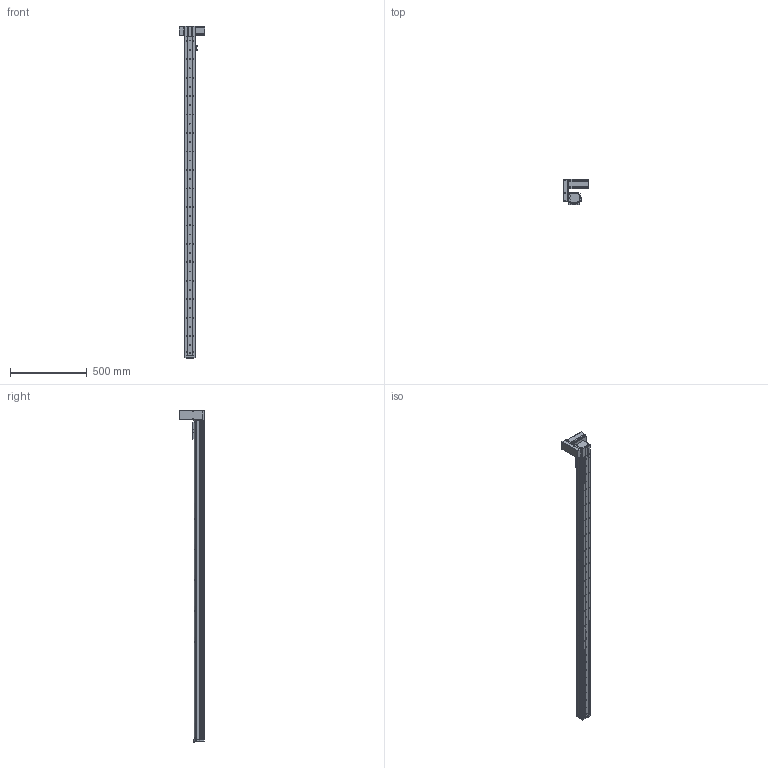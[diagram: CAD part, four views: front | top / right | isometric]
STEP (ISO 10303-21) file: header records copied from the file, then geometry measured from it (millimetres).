
FILE_DESCRIPTION (( 'STEP AP214' ), '1' );
FILE_NAME ('KSD68BS-S1900-MRU-CR.STEP', '2019-08-29T01:09:13', ( '微软用户' ), ( '微软中国' ), 'SwSTEP 2.0', 'SolidWorks 2014', '' );
FILE_SCHEMA (( 'AUTOMOTIVE_DESIGN' ));
Length unit declared in the file: millimetre
Products named in the file (14): 68宽单导轨全封闭同步带端板; 68单导轨全封闭同步带电机座右; 68单导轨全封闭同步带安装板; 悵誘欶奻狟殏; 68宽马达安装板连板上折同步带; 感应片68宽全封闭; U倰嫖萇EEㄜSX672; 台达ECMA－C20604AS伺服电机（400W); KSD68BS 1900行程盖板全封闭; KSD68BS 1900行程底板全封闭; KSD68BS-S1900-MRU-CR; 68宽单导轨全封闭丝杆传动安装板1防护罩; 68遵裔啣揤啣1; KSD68BS 1900行程侧板全封闭
Assembly tree (16 placements, depth 2):
  KSD68BS-S1900-MRU-CR
    KSD68BS 1900行程底板全封闭
    台达ECMA－C20604AS伺服电机（400W)
    U倰嫖萇EEㄜSX672  x2
    感应片68宽全封闭
    68宽马达安装板连板上折同步带
    悵誘欶奻狟殏
    68单导轨全封闭同步带安装板
    68单导轨全封闭同步带电机座右
    68宽单导轨全封闭同步带端板
    KSD68BS 1900行程侧板全封闭  x2
    68宽单导轨全封闭丝杆传动安装板1防护罩
    68遵裔啣揤啣1  x2
    KSD68BS 1900行程盖板全封闭
Bounding box: 167.2 x 159.5 x 2158.1 mm (x, y, z)
Volume: 3748049.5 mm3; surface area: 1542205.7 mm2
Topology: 17 solids, 17 shells, 1552 faces, 4503 edges, 2855 vertices
Faces by surface type: cylinder 791, plane 561, cone 200
Entity records: 54506 total; most frequent: CARTESIAN_POINT 9504, DIRECTION 8099, ORIENTED_EDGE 7750, EDGE_CURVE 3875, AXIS2_PLACEMENT_3D 2964, VERTEX_POINT 2541, VECTOR 2171, LINE 2171
